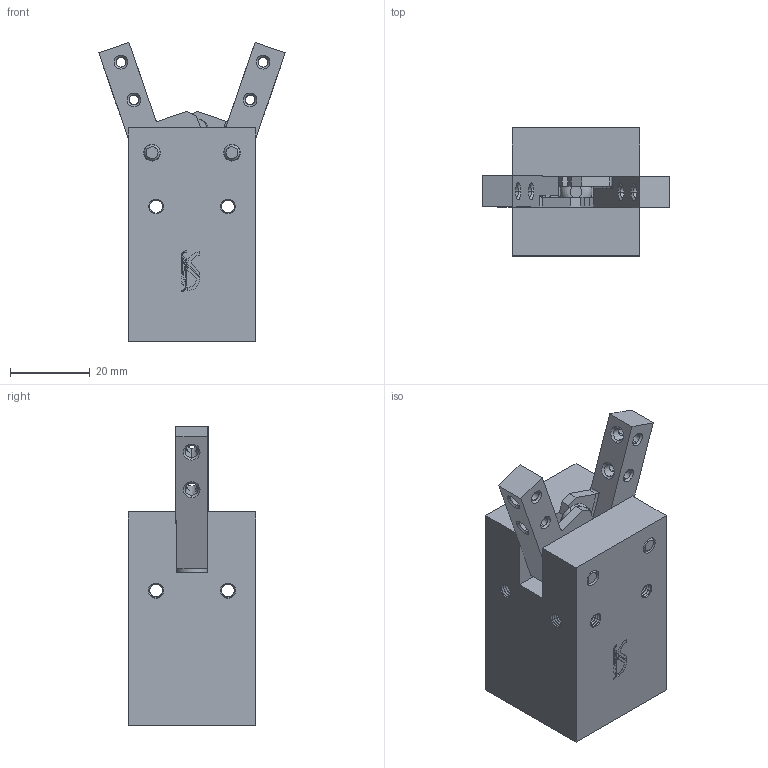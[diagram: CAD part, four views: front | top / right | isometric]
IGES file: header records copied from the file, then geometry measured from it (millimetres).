
Start section: SolidWorks IGES file using analytic representation for surfaces
Global section: file name: C:\Users\utente22\Desktop\3 D\MANI DI PRESA\MH-0 - ANGULAR GRIPPERS\Ø20\IGES\3D MH Ø 20.IGS; native system: SolidWorks 2014; preprocessor: SolidWorks 2014; author: utente22; date: 150508.103426; units: millimetre
Bounding box: 46.74 x 32 x 74.91 mm (x, y, z)
Volume: 52112.6 mm3; surface area: 19854.4 mm2
Topology: 4 solids, 4 shells, 718 faces, 3696 edges, 4707 vertices
Faces by surface type: revolution 562, plane 156
